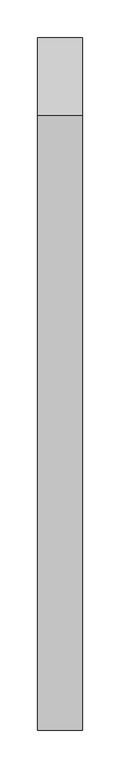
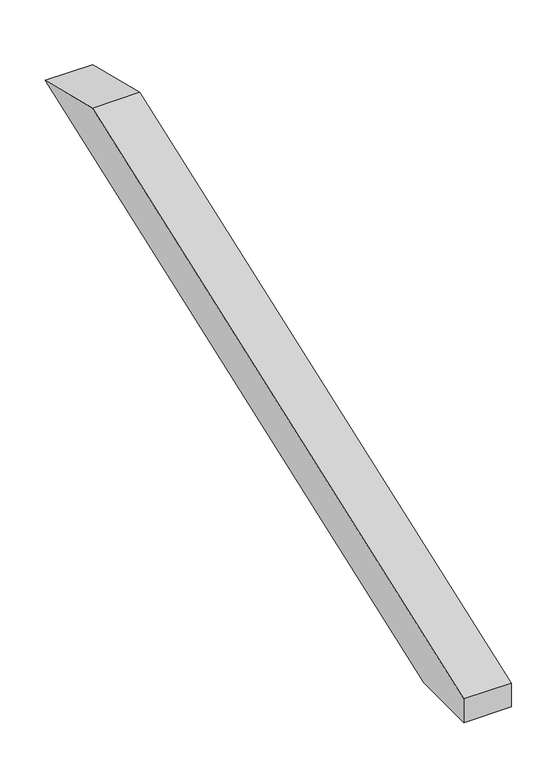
"""IFC4 building model written with IfcOpenShell, lengths in millimetres: proxy geometry, Modelos genéricos 15 : Modelos genéricos 14."""

from ifc_helpers import new_model, si_unit, frame, origin, place, context, project, spatial, polyline, outline, extrude, source, transform, mapped, element, save


def generic_models_77e6f278(model_context):
    return source(origin(), model_context, "Body", "SweptSolid", [
        extrude(outline(polyline([(4380.24101, 3463.5158927), (3546.3379485, 3160.0), (3458.6238165, 3160.0), (3458.6238165, 3191.9253332), (4276.1307053, 3489.473507), (4380.24101, 3463.5158927)])), frame((-12676.5527533, 0.0, 0.0), z_axis=(1.0, 0.0, 0.0), x_axis=(0.0, 1.0, 0.0)), (0.0, 0.0, 1.0), 60.0),
    ])


if __name__ == "__main__":
    model = new_model("IFC4")
    model_context = context("Model", 3, world=origin())
    ifc_project = project(units=[si_unit("LENGTHUNIT", "METRE", prefix="MILLI")], contexts=[model_context])
    site = spatial("IfcSite", under=ifc_project)
    building = spatial("IfcBuilding", under=site)
    placement = place(None, origin())
    generic_models_shape = generic_models_77e6f278(model_context)
    element("IfcBuildingElementProxy", 1, Name="Modelos genéricos 15 : Modelos genéricos 14", ObjectType="Modelos genéricos 15 : Modelos genéricos 14", at=placement, inside=building, context=model_context, shape_type="MappedRepresentation", body=[
        mapped(generic_models_shape, transform((0.0, 0.0, 0.0), x_axis=(1.0, 0.0, 0.0), y_axis=(0.0, 1.0, 0.0), z_axis=(0.0, 0.0, 1.0))),
    ])
    save(model, "model.ifc")
